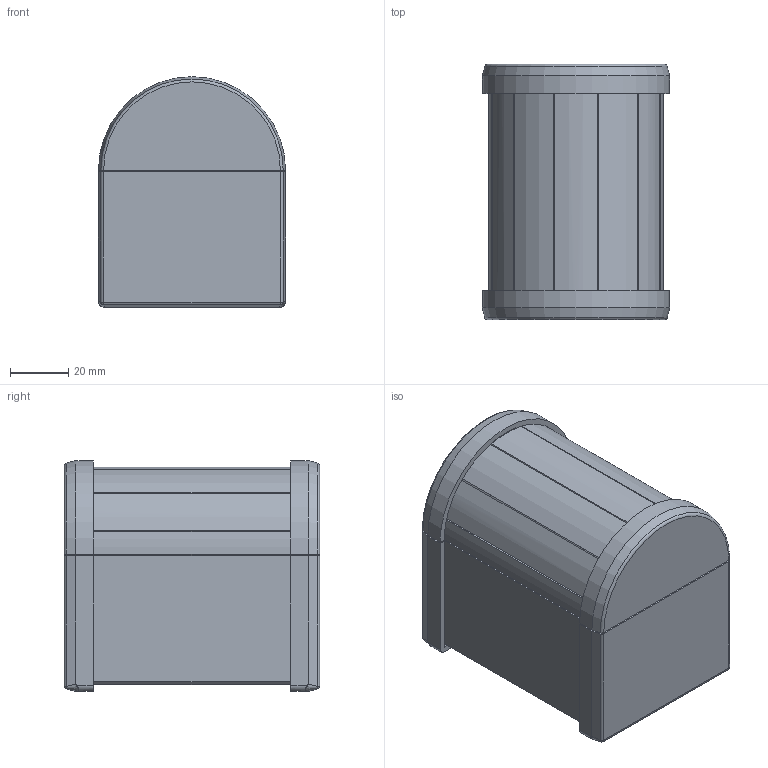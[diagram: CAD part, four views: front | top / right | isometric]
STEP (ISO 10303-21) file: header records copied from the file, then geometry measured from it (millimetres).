
FILE_DESCRIPTION(/* description */ (''),/* implementation_level */ '2;1');
FILE_NAME(/* name */ (''),/* time_stamp */ (''),/* author */ (''),/* organization */ (''),/* preprocessor_version */ 'ST-DEVELOPER v18.1',/* originating_system */ 'Autodesk Translation Framework v10.14.0.1471',/* authorisation */ '');
FILE_SCHEMA (('AUTOMOTIVE_DESIGN { 1 0 10303 214 3 1 1 }'));
Length unit declared in the file: millimetre
Products named in the file (1): Easy Print Treasure Chest Puzzle
Bounding box: 64.5 x 88 x 79.5 mm (x, y, z)
Volume: 189612.2 mm3; surface area: 98490.7 mm2
Topology: 10 solids, 10 shells, 440 faces, 1165 edges, 741 vertices
Faces by surface type: plane 335, cylinder 57, cone 38, bspline 8, torus 2
Full cylindrical faces by diameter (mm): 2 x3
Entity records: 13978 total; most frequent: CARTESIAN_POINT 3123, ORIENTED_EDGE 2312, DIRECTION 2103, EDGE_CURVE 1156, LINE 917, VECTOR 917, VERTEX_POINT 741, AXIS2_PLACEMENT_3D 593
